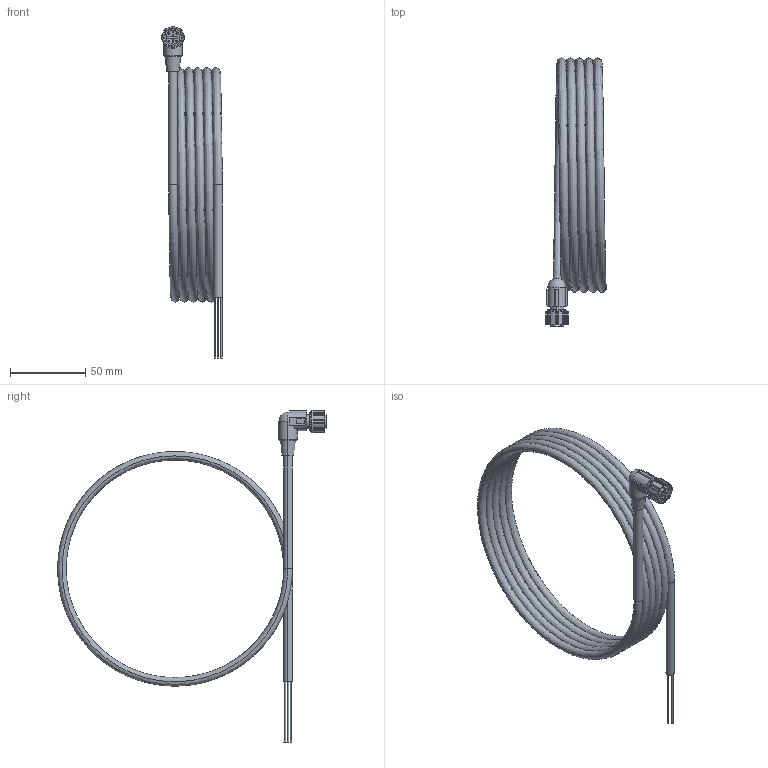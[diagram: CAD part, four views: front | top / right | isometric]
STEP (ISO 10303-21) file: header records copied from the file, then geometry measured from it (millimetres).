
FILE_DESCRIPTION (( 'STEP AP214' ), '1' );
FILE_NAME ('Cable-2.STEP', '2021-02-12T15:39:06', ( '' ), ( '' ), 'SwSTEP 2.0', 'SolidWorks 2021', '' );
FILE_SCHEMA (( 'AUTOMOTIVE_DESIGN' ));
Length unit declared in the file: millimetre
Products named in the file (1): Cable-2
Bounding box: 40.33 x 178.35 x 220.48 mm (x, y, z)
Volume: 69295.6 mm3; surface area: 48466.1 mm2
Topology: 1 solids, 1 shells, 151 faces, 382 edges, 251 vertices
Faces by surface type: cylinder 72, plane 70, cone 6, bspline 2, sphere 1
Entity records: 8466 total; most frequent: CARTESIAN_POINT 3046, DIRECTION 837, ORIENTED_EDGE 760, EDGE_CURVE 380, AXIS2_PLACEMENT_3D 313, VERTEX_POINT 250, LINE 211, VECTOR 211
